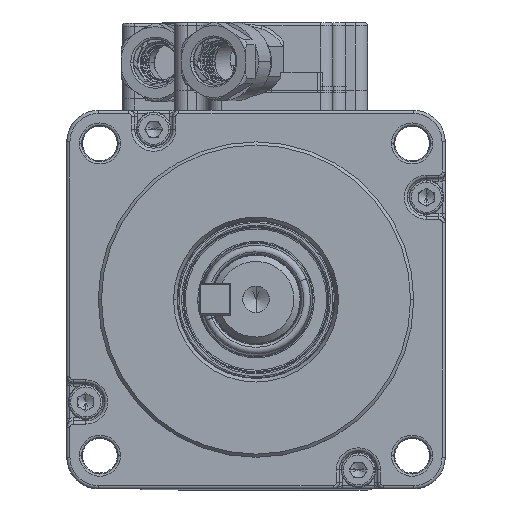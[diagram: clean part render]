
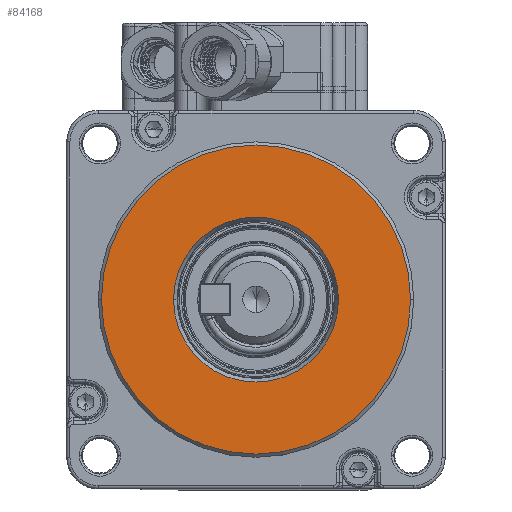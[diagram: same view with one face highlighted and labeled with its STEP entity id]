
A CAD part, top view. The second image highlights one B-rep face of the part: STEP entity #84168.
In plain terms, the highlighted planar face has unit normal (0, 0, 1).
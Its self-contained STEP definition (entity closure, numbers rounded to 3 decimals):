
#77193=CARTESIAN_POINT('',(0.,0.,8.));
#77194=DIRECTION('',(0.,0.,-1.));
#77195=DIRECTION('',(-1.,0.,0.));
#77196=AXIS2_PLACEMENT_3D('',#77193,#77194,#77195);
#77198=CARTESIAN_POINT('',(0.,0.,8.));
#77199=DIRECTION('',(0.,0.,-1.));
#77200=DIRECTION('',(1.,0.,0.));
#77201=AXIS2_PLACEMENT_3D('',#77198,#77199,#77200);
#77203=CARTESIAN_POINT('',(0.,0.,8.));
#77204=DIRECTION('',(0.,0.,1.));
#77205=DIRECTION('',(-1.,0.,0.));
#77206=AXIS2_PLACEMENT_3D('',#77203,#77204,#77205);
#77208=CARTESIAN_POINT('',(0.,0.,8.));
#77209=DIRECTION('',(0.,0.,1.));
#77210=DIRECTION('',(1.,0.,0.));
#77211=AXIS2_PLACEMENT_3D('',#77208,#77209,#77210);
#78116=CARTESIAN_POINT('',(24.5,0.,8.));
#78117=VERTEX_POINT('',#78116);
#78118=CARTESIAN_POINT('',(-24.5,0.,8.));
#78119=VERTEX_POINT('',#78118);
#78120=CARTESIAN_POINT('',(-13.077,0.,8.));
#78121=CARTESIAN_POINT('',(13.077,0.,8.));
#78122=VERTEX_POINT('',#78120);
#78123=VERTEX_POINT('',#78121);
#84153=CARTESIAN_POINT('',(25.,25.,8.));
#84154=DIRECTION('',(0.,0.,-1.));
#84155=DIRECTION('',(-1.,0.,0.));
#84156=AXIS2_PLACEMENT_3D('',#84153,#84154,#84155);
#84157=PLANE('',#84156);
#84158=ORIENTED_EDGE('',*,*,#84133,.T.);
#84159=ORIENTED_EDGE('',*,*,#84147,.T.);
#84160=EDGE_LOOP('',(#84158,#84159));
#84161=FACE_OUTER_BOUND('',#84160,.F.);
#84163=ORIENTED_EDGE('',*,*,#84162,.T.);
#84165=ORIENTED_EDGE('',*,*,#84164,.T.);
#84166=EDGE_LOOP('',(#84163,#84165));
#84167=FACE_BOUND('',#84166,.F.);
#84168=ADVANCED_FACE('',(#84161,#84167),#84157,.F.);
#77197=CIRCLE('',#77196,24.5);
#77202=CIRCLE('',#77201,24.5);
#77207=CIRCLE('',#77206,13.077);
#77212=CIRCLE('',#77211,13.077);
#84133=EDGE_CURVE('',#78119,#78117,#77197,.T.);
#84147=EDGE_CURVE('',#78117,#78119,#77202,.T.);
#84162=EDGE_CURVE('',#78122,#78123,#77207,.T.);
#84164=EDGE_CURVE('',#78123,#78122,#77212,.T.);
